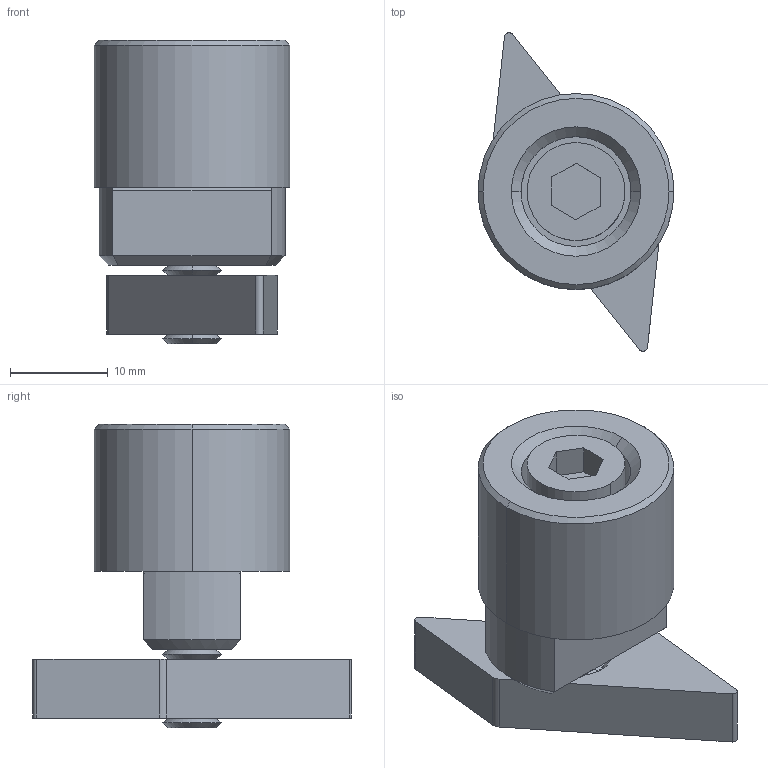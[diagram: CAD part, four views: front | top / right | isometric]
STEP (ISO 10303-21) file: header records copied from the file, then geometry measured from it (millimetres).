
FILE_DESCRIPTION (( 'STEP AP203' ), '1' );
FILE_NAME ('30200.W0110.step', '2017-06-30T11:02:23', ( 'User' ), ( '' ), 'SwSTEP 2.0', 'SolidWorks 2009', '' );
FILE_SCHEMA (( 'CONFIG_CONTROL_DESIGN' ));
Length unit declared in the file: millimetre
Products named in the file (4): screw_M6x25; Part1_30200.W0110; 30200.W0110; Wedge_30200.W0110
Assembly tree (3 placements, depth 2):
  30200.W0110
    screw_M6x25
    Wedge_30200.W0110
    Part1_30200.W0110
Bounding box: 20 x 32.5 x 31 mm (x, y, z)
Volume: 7291.2 mm3; surface area: 4433 mm2
Topology: 3 solids, 3 shells, 104 faces, 225 edges, 131 vertices
Faces by surface type: cone 51, plane 34, cylinder 19
Entity records: 3208 total; most frequent: DIRECTION 530, CARTESIAN_POINT 478, ORIENTED_EDGE 450, EDGE_CURVE 225, AXIS2_PLACEMENT_3D 199, VECTOR 132, LINE 132, VERTEX_POINT 131
